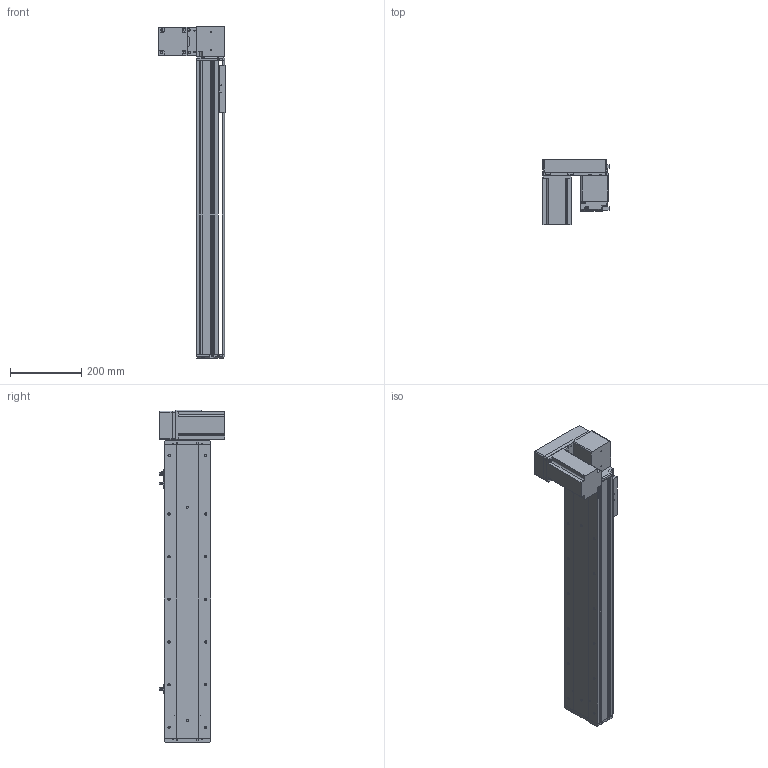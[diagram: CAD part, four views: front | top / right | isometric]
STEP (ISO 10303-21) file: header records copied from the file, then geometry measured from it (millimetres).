
FILE_DESCRIPTION (( 'STEP AP214' ), '1' );
FILE_NAME ('KSD130B-S600-MRD-CM.STEP', '2019-09-21T09:46:44', ( '微软用户' ), ( '微软中国' ), 'SwSTEP 2.0', 'SolidWorks 2014', '' );
FILE_SCHEMA (( 'AUTOMOTIVE_DESIGN' ));
Length unit declared in the file: millimetre
Products named in the file (12): 130宽模组保护罩上下左右折-同步带; 台达ECMA－C20807AS伺服电机; 130宽模组马达安装板连板上下折丝杆同步带; 覜茼え100遵圉猾敕; U倰嫖萇EEㄜSX672; 130宽盖板半封闭同步带-600行程; 130宽马达安装板同步带右-改镜向_默认<按加工>; 130宽马达安装板同步带半封闭; 130宽同步带安装座半封闭; 130宽端盖同步带半封闭; 130宽底板半封闭同步带-600行程; KSD130B-S600-MRD-CM
Assembly tree (13 placements, depth 2):
  KSD130B-S600-MRD-CM
    130宽底板半封闭同步带-600行程
    130宽端盖同步带半封闭
    130宽同步带安装座半封闭
    130宽马达安装板同步带半封闭
    130宽马达安装板同步带右-改镜向_默认<按加工>
    130宽盖板半封闭同步带-600行程
    U倰嫖萇EEㄜSX672  x3
    覜茼え100遵圉猾敕
    130宽模组马达安装板连板上下折丝杆同步带
    台达ECMA－C20807AS伺服电机
    130宽模组保护罩上下左右折-同步带
Bounding box: 186 x 184.8 x 933 mm (x, y, z)
Volume: 3887701 mm3; surface area: 1025106.1 mm2
Topology: 14 solids, 14 shells, 1427 faces, 4025 edges, 2581 vertices
Faces by surface type: cylinder 670, plane 610, cone 147
Entity records: 45827 total; most frequent: CARTESIAN_POINT 8242, DIRECTION 7031, ORIENTED_EDGE 6742, EDGE_CURVE 3371, AXIS2_PLACEMENT_3D 2550, VERTEX_POINT 2205, VECTOR 1931, LINE 1931
